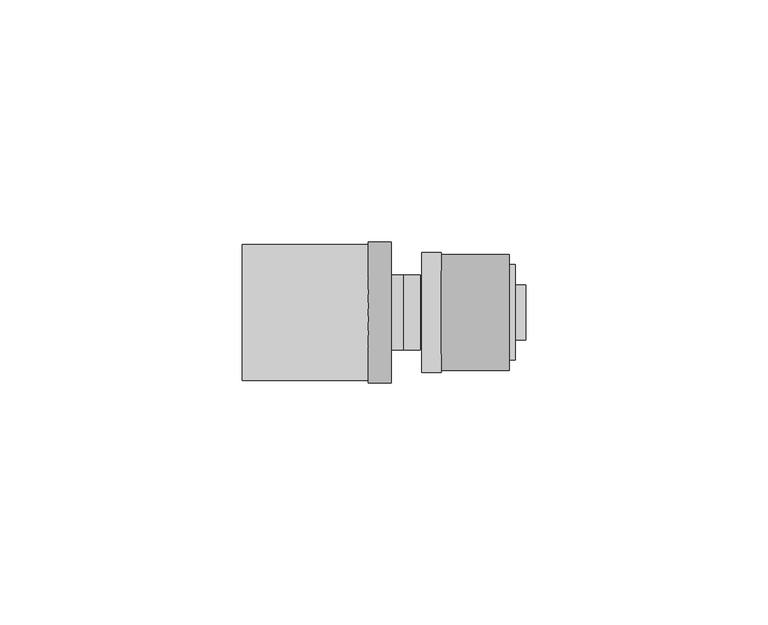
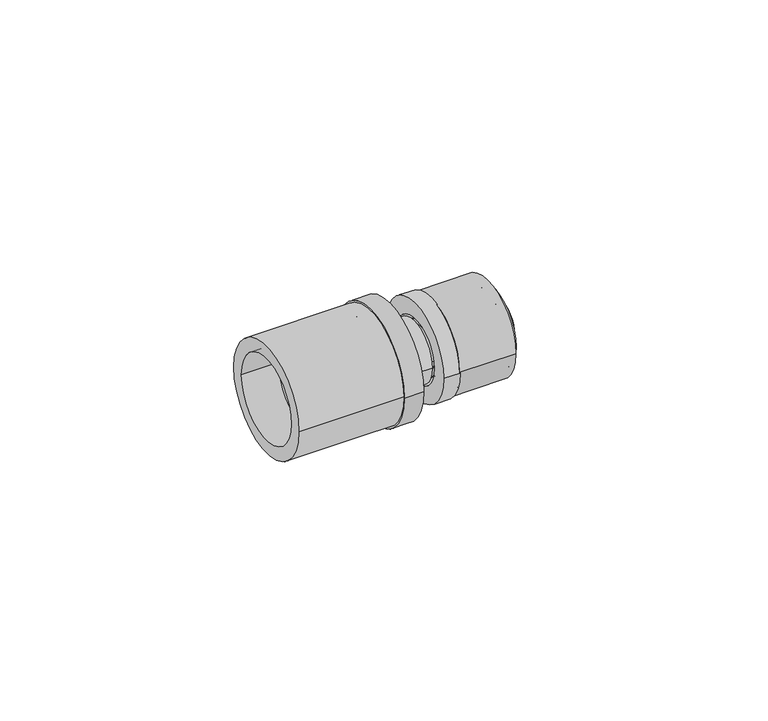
"""IFC4 building model written with IfcOpenShell, lengths in millimetres: pipe fitting geometry, FASTLOC_Coupling reduced LX : FSL C LX CZ."""

from ifc_helpers import new_model, si_unit, point, frame, origin, origin_2d, place, context, project, spatial, polyline, circle_curve, trimmed, segment, composite_curve, outline, extrude, source, transform, mapped, element, save
from ifc_brep_helpers import plane_surface, cylinder_surface, revolved_surface, advanced_brep


def pipe_fitting_0b32e4b0(model_context):
    return source(origin(), model_context, "Body", "SolidModel", [
        extrude(outline(composite_curve([segment(trimmed(circle_curve(origin_2d(), 12.0), [point((-12.0, 0.0))], [point((12.0, 0.0))], False, "CARTESIAN"), True, "CONTINUOUS"), segment(trimmed(circle_curve(origin_2d(), 12.0), [point((12.0, 0.0))], [point((-12.0, 0.0))], False, "CARTESIAN"), True, "CONTINUOUS")], self_intersect=False), holes=[composite_curve([segment(trimmed(circle_curve(origin_2d(), 8.85), [point((-8.85, 0.0))], [point((8.85, 0.0))], True, "CARTESIAN"), True, "CONTINUOUS"), segment(trimmed(circle_curve(origin_2d(), 8.85), [point((8.85, 0.0))], [point((-8.85, 0.0))], True, "CARTESIAN"), True, "CONTINUOUS")], self_intersect=False)]), frame((6.3, 0.0, 0.0), z_axis=(1.0, 0.0, 0.0), x_axis=(0.0, 1.0, 0.0)), (0.0, 0.0, 1.0), 14.0),
        advanced_brep(
        [(6.3, 12.35, 0.0), (6.3, -12.35, 0.0), (2.3, -12.35, 0.0), (2.3, 12.35, 0.0), (21.6, 9.85, 0.0), (21.6, -9.85, 0.0), (6.3, -9.85, 0.0), (6.3, 9.85, 0.0), (2.3, 8.15, 0.0), (2.3, -8.15, 0.0), (21.6, -8.15, 0.0), (21.6, 8.15, 0.0)],
        [
            (0, 1, circle_curve(frame((6.3, 0.0, 0.0), z_axis=(-1.0, 0.0, 0.0), x_axis=(0.0, -1.0, 0.0)), 12.35)),
            (1, 2),
            (2, 3, circle_curve(frame((2.3, 0.0, 0.0), z_axis=(1.0, 0.0, 0.0), x_axis=(0.0, -1.0, 0.0)), 12.35)),
            (3, 0),
            (4, 5, circle_curve(frame((21.6, 0.0, 0.0), z_axis=(-1.0, 0.0, 0.0), x_axis=(0.0, -1.0, 0.0)), 9.85)),
            (5, 6),
            (6, 7, circle_curve(frame((6.3, 0.0, 0.0), z_axis=(1.0, 0.0, 0.0), x_axis=(0.0, -1.0, 0.0)), 9.85)),
            (7, 4),
            (8, 9, circle_curve(frame((2.3, 0.0, 0.0), z_axis=(-1.0, 0.0, 0.0), x_axis=(0.0, -1.0, 0.0)), 8.15)),
            (9, 10),
            (10, 11, circle_curve(frame((21.6, 0.0, 0.0), z_axis=(1.0, 0.0, 0.0), x_axis=(0.0, -1.0, 0.0)), 8.15)),
            (11, 8),
            (1, 0, circle_curve(frame((6.3, 0.0, 0.0), z_axis=(-1.0, 0.0, 0.0), x_axis=(0.0, 1.0, 0.0)), 12.35)),
            (3, 2, circle_curve(frame((2.3, 0.0, 0.0), z_axis=(1.0, 0.0, 0.0), x_axis=(0.0, 1.0, 0.0)), 12.35)),
            (6, 7, circle_curve(frame((6.3, 0.0, 0.0), z_axis=(-1.0, 0.0, 0.0), x_axis=(0.0, 1.0, 0.0)), 9.85)),
            (5, 4, circle_curve(frame((21.6, 0.0, 0.0), z_axis=(-1.0, 0.0, 0.0), x_axis=(0.0, 1.0, 0.0)), 9.85)),
            (10, 11, circle_curve(frame((21.6, 0.0, 0.0), z_axis=(-1.0, 0.0, 0.0), x_axis=(0.0, 1.0, 0.0)), 8.15)),
            (9, 8, circle_curve(frame((2.3, 0.0, 0.0), z_axis=(-1.0, 0.0, 0.0), x_axis=(0.0, 1.0, 0.0)), 8.15)),
        ],
        [
            cylinder_surface(frame((2.3, 0.0, 0.0), z_axis=(1.0, 0.0, 0.0), x_axis=(0.0, -1.0, 0.0)), 12.35),
            cylinder_surface(frame((2.3, 0.0, 0.0), z_axis=(1.0, 0.0, 0.0), x_axis=(0.0, -1.0, 0.0)), 9.85),
            revolved_surface(polyline([(21.6, -8.15, 0.0), (2.3, -8.15, 0.0)]), (2.3, 0.0, 0.0), (1.0, 0.0, 0.0)),
            cylinder_surface(frame((2.3, 0.0, 0.0), z_axis=(1.0, 0.0, 0.0), x_axis=(0.0, 1.0, 0.0)), 12.35),
            plane_surface(frame((6.3, 0.0, 0.0), z_axis=(1.0, 0.0, 0.0), x_axis=(0.0, 1.0, 0.0))),
            cylinder_surface(frame((2.3, 0.0, 0.0), z_axis=(1.0, 0.0, 0.0), x_axis=(0.0, 1.0, 0.0)), 9.85),
            plane_surface(frame((21.6, 0.0, 0.0), z_axis=(1.0, 0.0, 0.0), x_axis=(0.0, 1.0, 0.0))),
            revolved_surface(polyline([(21.6, 8.15, 0.0), (2.3, 8.15, 0.0)]), (2.3, 0.0, 0.0), (1.0, 0.0, 0.0)),
            plane_surface(frame((2.3, 0.0, 0.0), z_axis=(-1.0, 0.0, 0.0), x_axis=(0.0, 1.0, 0.0))),
        ],
        [
            (0, [[1, 2, 3, 4]]),
            (1, [[5, 6, 7, 8]]),
            (2, [[9, 10, 11, 12]]),
            (3, [[13, -4, 14, -2]]),
            (4, [[-13, -1], [15, -7]]),
            (5, [[16, -8, -15, -6]]),
            (6, [[-16, -5], [17, -11]]),
            (7, [[18, -12, -17, -10]]),
            (8, [[-14, -3], [-18, -9]]),
        ],
    ),
        extrude(outline(composite_curve([segment(trimmed(circle_curve(origin_2d(), 14.0), [point((14.0, 0.0))], [point((-14.0, 0.0))], False, "CARTESIAN"), True, "CONTINUOUS"), segment(trimmed(circle_curve(origin_2d(), 14.0), [point((-14.0, 0.0))], [point((14.0, 0.0))], False, "CARTESIAN"), True, "CONTINUOUS")], self_intersect=False), holes=[composite_curve([segment(trimmed(circle_curve(origin_2d(), 10.7), [point((10.7, 0.0))], [point((-10.7, 0.0))], True, "CARTESIAN"), True, "CONTINUOUS"), segment(trimmed(circle_curve(origin_2d(), 10.7), [point((-10.7, 0.0))], [point((10.7, 0.0))], True, "CARTESIAN"), True, "CONTINUOUS")], self_intersect=False)]), frame((-34.7, 0.0, 0.0), z_axis=(1.0, 0.0, 0.0), x_axis=(0.0, 1.0, 0.0)), (0.0, 0.0, 1.0), 26.0),
        advanced_brep(
        [(-8.7, -14.5, 0.0), (-8.7, 14.5, 0.0), (-4.0, 14.5, 0.0), (-4.0, -14.5, 0.0), (-25.7, -11.85, 0.0), (-25.7, 11.85, 0.0), (-8.7, 11.85, 0.0), (-8.7, -11.85, 0.0), (-4.0, -10.15, 0.0), (-4.0, 10.15, 0.0), (-25.7, 10.15, 0.0), (-25.7, -10.15, 0.0)],
        [
            (0, 1, circle_curve(frame((-8.7, 0.0, 0.0), z_axis=(1.0, 0.0, 0.0), x_axis=(0.0, 1.0, 0.0)), 14.5)),
            (1, 2),
            (2, 3, circle_curve(frame((-4.0, 0.0, 0.0), z_axis=(-1.0, 0.0, 0.0), x_axis=(0.0, 1.0, 0.0)), 14.5)),
            (3, 0),
            (4, 5, circle_curve(frame((-25.7, 0.0, 0.0), z_axis=(1.0, 0.0, 0.0), x_axis=(0.0, 1.0, 0.0)), 11.85)),
            (5, 6),
            (6, 7, circle_curve(frame((-8.7, 0.0, 0.0), z_axis=(-1.0, 0.0, 0.0), x_axis=(0.0, 1.0, 0.0)), 11.85)),
            (7, 4),
            (8, 9, circle_curve(frame((-4.0, 0.0, 0.0), z_axis=(1.0, 0.0, 0.0), x_axis=(0.0, 1.0, 0.0)), 10.15)),
            (9, 10),
            (10, 11, circle_curve(frame((-25.7, 0.0, 0.0), z_axis=(-1.0, 0.0, 0.0), x_axis=(0.0, 1.0, 0.0)), 10.15)),
            (11, 8),
            (1, 0, circle_curve(frame((-8.7, 0.0, 0.0), z_axis=(1.0, 0.0, 0.0), x_axis=(0.0, -1.0, 0.0)), 14.5)),
            (3, 2, circle_curve(frame((-4.0, 0.0, 0.0), z_axis=(-1.0, 0.0, 0.0), x_axis=(0.0, -1.0, 0.0)), 14.5)),
            (6, 7, circle_curve(frame((-8.7, 0.0, 0.0), z_axis=(1.0, 0.0, 0.0), x_axis=(0.0, -1.0, 0.0)), 11.85)),
            (5, 4, circle_curve(frame((-25.7, 0.0, 0.0), z_axis=(1.0, 0.0, 0.0), x_axis=(0.0, -1.0, 0.0)), 11.85)),
            (10, 11, circle_curve(frame((-25.7, 0.0, 0.0), z_axis=(1.0, 0.0, 0.0), x_axis=(0.0, -1.0, 0.0)), 10.15)),
            (9, 8, circle_curve(frame((-4.0, 0.0, 0.0), z_axis=(1.0, 0.0, 0.0), x_axis=(0.0, -1.0, 0.0)), 10.15)),
        ],
        [
            cylinder_surface(frame((-4.0, 0.0, 0.0), z_axis=(-1.0, 0.0, 0.0), x_axis=(0.0, 1.0, 0.0)), 14.5),
            cylinder_surface(frame((-4.0, 0.0, 0.0), z_axis=(-1.0, 0.0, 0.0), x_axis=(0.0, 1.0, 0.0)), 11.85),
            revolved_surface(polyline([(-25.7, 10.15, 0.0), (-4.0, 10.15, 0.0)]), (-4.0, 0.0, 0.0), (-1.0, 0.0, 0.0)),
            cylinder_surface(frame((-4.0, 0.0, 0.0), z_axis=(-1.0, 0.0, 0.0), x_axis=(0.0, -1.0, 0.0)), 14.5),
            plane_surface(frame((-8.7, 0.0, 0.0), z_axis=(-1.0, 0.0, 0.0), x_axis=(0.0, -1.0, 0.0))),
            cylinder_surface(frame((-4.0, 0.0, 0.0), z_axis=(-1.0, 0.0, 0.0), x_axis=(0.0, -1.0, 0.0)), 11.85),
            plane_surface(frame((-25.7, 0.0, 0.0), z_axis=(-1.0, 0.0, 0.0), x_axis=(0.0, -1.0, 0.0))),
            revolved_surface(polyline([(-25.7, -10.15, 0.0), (-4.0, -10.15, 0.0)]), (-4.0, 0.0, 0.0), (-1.0, 0.0, 0.0)),
            plane_surface(frame((-4.0, 0.0, 0.0), z_axis=(1.0, 0.0, 0.0), x_axis=(0.0, -1.0, 0.0))),
        ],
        [
            (0, [[1, 2, 3, 4]]),
            (1, [[5, 6, 7, 8]]),
            (2, [[9, 10, 11, 12]]),
            (3, [[13, -4, 14, -2]]),
            (4, [[-13, -1], [15, -7]]),
            (5, [[16, -8, -15, -6]]),
            (6, [[-16, -5], [17, -11]]),
            (7, [[18, -12, -17, -10]]),
            (8, [[-14, -3], [-18, -9]]),
        ],
    ),
        advanced_brep(
        [(-1.5, 7.75, 0.0), (-1.5, -7.75, 0.0), (-6.0, -7.75, 0.0), (-6.0, 7.75, 0.0), (-6.0, 8.8, 0.0), (-6.0, -8.8, 0.0), (-8.7, -8.8, 0.0), (-8.7, 8.8, 0.0), (-8.7, 7.75, 0.0), (-8.7, -7.75, 0.0), (-23.7, -7.75, 0.0), (-23.7, 7.75, 0.0), (-23.7, 5.75, 0.0), (-23.7, -5.75, 0.0), (-1.5, -5.75, 0.0), (-1.5, 5.75, 0.0), (-1.5, 3.8, 0.0), (-1.5, -3.8, 0.0), (23.7, -3.8, 0.0), (23.7, 3.8, 0.0), (23.7, 5.6229189, 0.0), (23.7, -5.6229189, 0.0), (6.3, -5.6229189, 0.0), (6.3, 5.6229189, 0.0), (6.3, 6.75, 0.0), (6.3, -6.75, 0.0), (3.6, -6.75, 0.0), (3.6, 6.75, 0.0), (3.6, 5.65, 0.0), (3.6, -5.65, 0.0), (2.0, -5.65, 0.0), (2.0, 5.65, 0.0), (2.0, 7.75, 0.0), (2.0, -7.75, 0.0)],
        [
            (0, 1, circle_curve(frame((-1.5, 0.0, 0.0), z_axis=(-1.0, 0.0, 0.0), x_axis=(0.0, -1.0, 0.0)), 7.75)),
            (1, 2),
            (2, 3, circle_curve(frame((-6.0, 0.0, 0.0), z_axis=(1.0, 0.0, 0.0), x_axis=(0.0, -1.0, 0.0)), 7.75)),
            (3, 0),
            (4, 5, circle_curve(frame((-6.0, 0.0, 0.0), z_axis=(-1.0, 0.0, 0.0), x_axis=(0.0, -1.0, 0.0)), 8.8)),
            (5, 6),
            (6, 7, circle_curve(frame((-8.7, 0.0, 0.0), z_axis=(1.0, 0.0, 0.0), x_axis=(0.0, -1.0, 0.0)), 8.8)),
            (7, 4),
            (8, 9, circle_curve(frame((-8.7, 0.0, 0.0), z_axis=(-1.0, 0.0, 0.0), x_axis=(0.0, -1.0, 0.0)), 7.75)),
            (9, 10),
            (10, 11, circle_curve(frame((-23.7, 0.0, 0.0), z_axis=(1.0, 0.0, 0.0), x_axis=(0.0, -1.0, 0.0)), 7.75)),
            (11, 8),
            (12, 13, circle_curve(frame((-23.7, 0.0, 0.0), z_axis=(-1.0, 0.0, 0.0), x_axis=(0.0, -1.0, 0.0)), 5.75)),
            (13, 14),
            (14, 15, circle_curve(frame((-1.5, 0.0, 0.0), z_axis=(1.0, 0.0, 0.0), x_axis=(0.0, -1.0, 0.0)), 5.75)),
            (15, 12),
            (1, 0, circle_curve(frame((-1.5, 0.0, 0.0), z_axis=(-1.0, 0.0, 0.0), x_axis=(0.0, 1.0, 0.0)), 7.75)),
            (3, 2, circle_curve(frame((-6.0, 0.0, 0.0), z_axis=(1.0, 0.0, 0.0), x_axis=(0.0, 1.0, 0.0)), 7.75)),
            (4, 5, circle_curve(frame((-6.0, 0.0, 0.0), z_axis=(1.0, 0.0, 0.0), x_axis=(0.0, 1.0, 0.0)), 8.8)),
            (7, 6, circle_curve(frame((-8.7, 0.0, 0.0), z_axis=(1.0, 0.0, 0.0), x_axis=(0.0, 1.0, 0.0)), 8.8)),
            (8, 9, circle_curve(frame((-8.7, 0.0, 0.0), z_axis=(1.0, 0.0, 0.0), x_axis=(0.0, 1.0, 0.0)), 7.75)),
            (11, 10, circle_curve(frame((-23.7, 0.0, 0.0), z_axis=(1.0, 0.0, 0.0), x_axis=(0.0, 1.0, 0.0)), 7.75)),
            (12, 13, circle_curve(frame((-23.7, 0.0, 0.0), z_axis=(1.0, 0.0, 0.0), x_axis=(0.0, 1.0, 0.0)), 5.75)),
            (15, 14, circle_curve(frame((-1.5, 0.0, 0.0), z_axis=(1.0, 0.0, 0.0), x_axis=(0.0, 1.0, 0.0)), 5.75)),
            (16, 17, circle_curve(frame((-1.5, 0.0, 0.0), z_axis=(-1.0, 0.0, 0.0), x_axis=(0.0, -1.0, 0.0)), 3.8)),
            (17, 18),
            (18, 19, circle_curve(frame((23.7, 0.0, 0.0), z_axis=(1.0, 0.0, 0.0), x_axis=(0.0, -1.0, 0.0)), 3.8)),
            (19, 16),
            (20, 21, circle_curve(frame((23.7, 0.0, 0.0), z_axis=(-1.0, 0.0, 0.0), x_axis=(0.0, -1.0, 0.0)), 5.6229189)),
            (21, 22),
            (22, 23, circle_curve(frame((6.3, 0.0, 0.0), z_axis=(1.0, 0.0, 0.0), x_axis=(0.0, -1.0, 0.0)), 5.6229189)),
            (23, 20),
            (24, 25, circle_curve(frame((6.3, 0.0, 0.0), z_axis=(-1.0, 0.0, 0.0), x_axis=(0.0, -1.0, 0.0)), 6.75)),
            (25, 26),
            (26, 27, circle_curve(frame((3.6, 0.0, 0.0), z_axis=(1.0, 0.0, 0.0), x_axis=(0.0, -1.0, 0.0)), 6.75)),
            (27, 24),
            (28, 29, circle_curve(frame((3.6, 0.0, 0.0), z_axis=(-1.0, 0.0, 0.0), x_axis=(0.0, -1.0, 0.0)), 5.65)),
            (29, 30),
            (30, 31, circle_curve(frame((2.0, 0.0, 0.0), z_axis=(1.0, 0.0, 0.0), x_axis=(0.0, -1.0, 0.0)), 5.65)),
            (31, 28),
            (32, 33, circle_curve(frame((2.0, 0.0, 0.0), z_axis=(-1.0, 0.0, 0.0), x_axis=(0.0, -1.0, 0.0)), 7.75)),
            (33, 1),
            (0, 32),
            (16, 17, circle_curve(frame((-1.5, 0.0, 0.0), z_axis=(1.0, 0.0, 0.0), x_axis=(0.0, 1.0, 0.0)), 3.8)),
            (19, 18, circle_curve(frame((23.7, 0.0, 0.0), z_axis=(1.0, 0.0, 0.0), x_axis=(0.0, 1.0, 0.0)), 3.8)),
            (20, 21, circle_curve(frame((23.7, 0.0, 0.0), z_axis=(1.0, 0.0, 0.0), x_axis=(0.0, 1.0, 0.0)), 5.6229189)),
            (23, 22, circle_curve(frame((6.3, 0.0, 0.0), z_axis=(1.0, 0.0, 0.0), x_axis=(0.0, 1.0, 0.0)), 5.6229189)),
            (24, 25, circle_curve(frame((6.3, 0.0, 0.0), z_axis=(1.0, 0.0, 0.0), x_axis=(0.0, 1.0, 0.0)), 6.75)),
            (27, 26, circle_curve(frame((3.6, 0.0, 0.0), z_axis=(1.0, 0.0, 0.0), x_axis=(0.0, 1.0, 0.0)), 6.75)),
            (28, 29, circle_curve(frame((3.6, 0.0, 0.0), z_axis=(1.0, 0.0, 0.0), x_axis=(0.0, 1.0, 0.0)), 5.65)),
            (31, 30, circle_curve(frame((2.0, 0.0, 0.0), z_axis=(1.0, 0.0, 0.0), x_axis=(0.0, 1.0, 0.0)), 5.65)),
            (32, 33, circle_curve(frame((2.0, 0.0, 0.0), z_axis=(1.0, 0.0, 0.0), x_axis=(0.0, 1.0, 0.0)), 7.75)),
        ],
        [
            cylinder_surface(frame((0.0, 0.0, 0.0), z_axis=(1.0, 0.0, 0.0), x_axis=(0.0, -1.0, 0.0)), 7.75),
            cylinder_surface(frame((0.0, 0.0, 0.0), z_axis=(1.0, 0.0, 0.0), x_axis=(0.0, -1.0, 0.0)), 8.8),
            revolved_surface(polyline([(-1.5, -5.75, 0.0), (-23.7, -5.75, 0.0)]), (0.0, 0.0, 0.0), (1.0, 0.0, 0.0)),
            cylinder_surface(frame((0.0, 0.0, 0.0), z_axis=(1.0, 0.0, 0.0), x_axis=(0.0, 1.0, 0.0)), 7.75),
            plane_surface(frame((-6.0, 0.0, 0.0), z_axis=(1.0, 0.0, 0.0), x_axis=(0.0, 1.0, 0.0))),
            cylinder_surface(frame((0.0, 0.0, 0.0), z_axis=(1.0, 0.0, 0.0), x_axis=(0.0, 1.0, 0.0)), 8.8),
            plane_surface(frame((-8.7, 0.0, 0.0), z_axis=(-1.0, 0.0, 0.0), x_axis=(0.0, 1.0, 0.0))),
            plane_surface(frame((-23.7, 0.0, 0.0), z_axis=(-1.0, 0.0, 0.0), x_axis=(0.0, 1.0, 0.0))),
            revolved_surface(polyline([(-1.5, 5.75, 0.0), (-23.7, 5.75, 0.0)]), (0.0, 0.0, 0.0), (1.0, 0.0, 0.0)),
            revolved_surface(polyline([(23.7, -3.8, 0.0), (-1.5, -3.8, 0.0)]), (0.0, 0.0, 0.0), (1.0, 0.0, 0.0)),
            cylinder_surface(frame((0.0, 0.0, 0.0), z_axis=(1.0, 0.0, 0.0), x_axis=(0.0, -1.0, 0.0)), 5.6229189),
            cylinder_surface(frame((0.0, 0.0, 0.0), z_axis=(1.0, 0.0, 0.0), x_axis=(0.0, -1.0, 0.0)), 6.75),
            cylinder_surface(frame((0.0, 0.0, 0.0), z_axis=(1.0, 0.0, 0.0), x_axis=(0.0, -1.0, 0.0)), 5.65),
            plane_surface(frame((-1.5, 0.0, 0.0), z_axis=(-1.0, 0.0, 0.0), x_axis=(0.0, 1.0, 0.0))),
            revolved_surface(polyline([(23.7, 3.8, 0.0), (-1.5, 3.8, 0.0)]), (0.0, 0.0, 0.0), (1.0, 0.0, 0.0)),
            plane_surface(frame((23.7, 0.0, 0.0), z_axis=(1.0, 0.0, 0.0), x_axis=(0.0, 1.0, 0.0))),
            cylinder_surface(frame((0.0, 0.0, 0.0), z_axis=(1.0, 0.0, 0.0), x_axis=(0.0, 1.0, 0.0)), 5.6229189),
            plane_surface(frame((6.3, 0.0, 0.0), z_axis=(1.0, 0.0, 0.0), x_axis=(0.0, 1.0, 0.0))),
            cylinder_surface(frame((0.0, 0.0, 0.0), z_axis=(1.0, 0.0, 0.0), x_axis=(0.0, 1.0, 0.0)), 6.75),
            plane_surface(frame((3.6, 0.0, 0.0), z_axis=(-1.0, 0.0, 0.0), x_axis=(0.0, 1.0, 0.0))),
            cylinder_surface(frame((0.0, 0.0, 0.0), z_axis=(1.0, 0.0, 0.0), x_axis=(0.0, 1.0, 0.0)), 5.65),
            plane_surface(frame((2.0, 0.0, 0.0), z_axis=(1.0, 0.0, 0.0), x_axis=(0.0, 1.0, 0.0))),
        ],
        [
            (0, [[1, 2, 3, 4]]),
            (1, [[5, 6, 7, 8]]),
            (0, [[9, 10, 11, 12]]),
            (2, [[13, 14, 15, 16]]),
            (3, [[17, -4, 18, -2]]),
            (4, [[19, -5], [-18, -3]]),
            (5, [[-19, -8, 20, -6]]),
            (6, [[-20, -7], [21, -9]]),
            (3, [[-21, -12, 22, -10]]),
            (7, [[-22, -11], [23, -13]]),
            (8, [[-23, -16, 24, -14]]),
            (9, [[25, 26, 27, 28]]),
            (10, [[29, 30, 31, 32]]),
            (11, [[33, 34, 35, 36]]),
            (12, [[37, 38, 39, 40]]),
            (0, [[41, 42, -1, 43]]),
            (13, [[-24, -15], [44, -25]]),
            (14, [[-44, -28, 45, -26]]),
            (15, [[46, -29], [-45, -27]]),
            (16, [[-46, -32, 47, -30]]),
            (17, [[48, -33], [-47, -31]]),
            (18, [[-48, -36, 49, -34]]),
            (19, [[-49, -35], [50, -37]]),
            (20, [[-50, -40, 51, -38]]),
            (21, [[52, -41], [-51, -39]]),
            (3, [[-52, -43, -17, -42]]),
        ],
    ),
    ])


if __name__ == "__main__":
    model = new_model("IFC4")
    model_context = context("Model", 3, world=origin())
    ifc_project = project(units=[si_unit("LENGTHUNIT", "METRE", prefix="MILLI")], contexts=[model_context])
    site = spatial("IfcSite", under=ifc_project)
    building = spatial("IfcBuilding", under=site)
    placement = place(None, origin())
    pipe_fitting_shape = pipe_fitting_0b32e4b0(model_context)
    element("IfcPipeFitting", 1, ObjectType="FASTLOC_Coupling reduced LX : FSL C LX CZ", at=placement, inside=building, context=model_context, shape_type="MappedRepresentation", body=[
        mapped(pipe_fitting_shape, transform((0.0, 0.0, 0.0), x_axis=(1.0, 0.0, 0.0), y_axis=(0.0, 1.0, 0.0), z_axis=(0.0, 0.0, 1.0))),
    ])
    save(model, "model.ifc")
